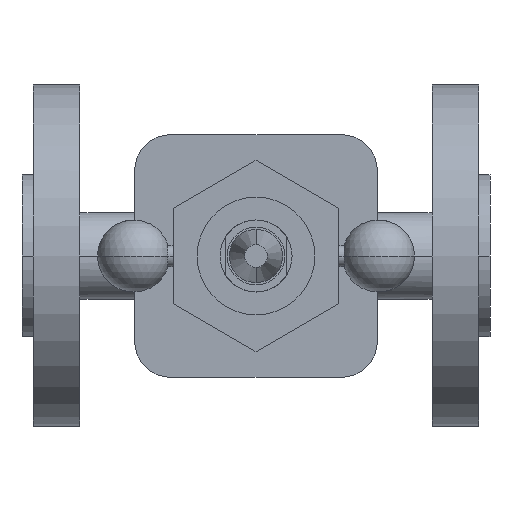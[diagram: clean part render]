
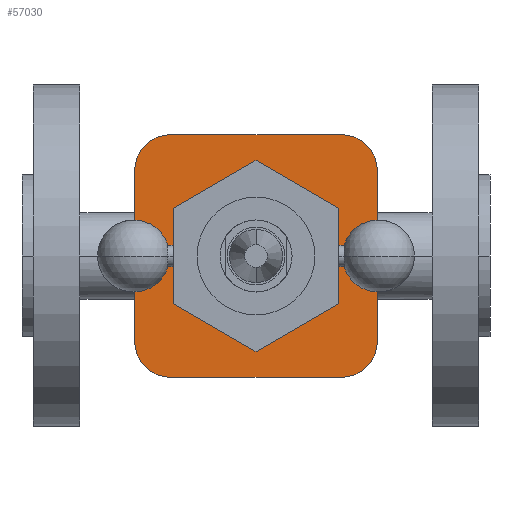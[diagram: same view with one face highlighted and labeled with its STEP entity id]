
A CAD part, front view. The second image highlights one B-rep face of the part: STEP entity #57030.
In plain terms, the highlighted planar face has unit normal (0, -1, 0).
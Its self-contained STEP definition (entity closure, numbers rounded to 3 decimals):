
#17800=CARTESIAN_POINT('',(86.,-61.5,0.));
#17810=VERTEX_POINT('',#17800);
#17970=CARTESIAN_POINT('',(44.,-61.5,0.));
#17980=VERTEX_POINT('',#17970);
#18010=CARTESIAN_POINT('',(65.,-61.5,0.));
#18020=DIRECTION('',(0.,-1.,0.));
#18030=DIRECTION('',(-1.,0.,0.));
#18040=AXIS2_PLACEMENT_3D('',#18010,#18020,#18030);
#18050=CIRCLE('',#18040,21.);
#18060=EDGE_CURVE('',#17810,#17980,#18050,.T.);
#46020=CARTESIAN_POINT('',(98.688,-61.5,-23.688));
#46030=VERTEX_POINT('',#46020);
#46060=CARTESIAN_POINT('',(98.688,-61.5,11.844));
#46070=DIRECTION('',(0.,0.,1.));
#46080=VECTOR('',#46070,1.);
#46090=LINE('',#46060,#46080);
#46100=CARTESIAN_POINT('',(98.688,-61.5,23.688));
#46110=VERTEX_POINT('',#46100);
#46120=EDGE_CURVE('',#46030,#46110,#46090,.T.);
#47200=CARTESIAN_POINT('',(88.688,-61.5,-33.688));
#47210=VERTEX_POINT('',#47200);
#47240=CARTESIAN_POINT('',(88.688,-61.5,-23.688));
#47250=DIRECTION('',(0.,-1.,0.));
#47260=DIRECTION('',(1.,0.,0.));
#47270=AXIS2_PLACEMENT_3D('',#47240,#47250,#47260);
#47280=CIRCLE('',#47270,10.);
#47290=EDGE_CURVE('',#47210,#46030,#47280,.T.);
#48280=CARTESIAN_POINT('',(41.312,-61.5,-33.688));
#48290=VERTEX_POINT('',#48280);
#48320=CARTESIAN_POINT('',(60.469,-61.5,-33.688));
#48330=DIRECTION('',(1.,0.,0.));
#48340=VECTOR('',#48330,1.);
#48350=LINE('',#48320,#48340);
#48360=EDGE_CURVE('',#48290,#47210,#48350,.T.);
#49390=CARTESIAN_POINT('',(31.312,-61.5,-23.688));
#49400=VERTEX_POINT('',#49390);
#49430=CARTESIAN_POINT('',(41.312,-61.5,-23.688));
#49440=DIRECTION('',(0.,-1.,0.));
#49450=DIRECTION('',(0.,0.,-1.));
#49460=AXIS2_PLACEMENT_3D('',#49430,#49440,#49450);
#49470=CIRCLE('',#49460,10.);
#49480=EDGE_CURVE('',#49400,#48290,#49470,.T.);
#50000=CARTESIAN_POINT('',(31.312,-61.5,23.688));
#50010=VERTEX_POINT('',#50000);
#50040=CARTESIAN_POINT('',(31.312,-61.5,-11.844));
#50050=DIRECTION('',(0.,0.,-1.));
#50060=VECTOR('',#50050,1.);
#50070=LINE('',#50040,#50060);
#50080=EDGE_CURVE('',#50010,#49400,#50070,.T.);
#50310=CARTESIAN_POINT('',(41.312,-61.5,33.688));
#50320=VERTEX_POINT('',#50310);
#50350=CARTESIAN_POINT('',(41.312,-61.5,23.688));
#50360=DIRECTION('',(0.,-1.,0.));
#50370=DIRECTION('',(-1.,0.,0.));
#50380=AXIS2_PLACEMENT_3D('',#50350,#50360,#50370);
#50390=CIRCLE('',#50380,10.);
#50400=EDGE_CURVE('',#50320,#50010,#50390,.T.);
#50630=CARTESIAN_POINT('',(88.688,-61.5,33.688));
#50640=VERTEX_POINT('',#50630);
#50670=CARTESIAN_POINT('',(36.781,-61.5,33.688));
#50680=DIRECTION('',(-1.,0.,0.));
#50690=VECTOR('',#50680,1.);
#50700=LINE('',#50670,#50690);
#50710=EDGE_CURVE('',#50640,#50320,#50700,.T.);
#50910=CARTESIAN_POINT('',(88.688,-61.5,23.688));
#50920=DIRECTION('',(0.,-1.,0.));
#50930=DIRECTION('',(0.,0.,1.));
#50940=AXIS2_PLACEMENT_3D('',#50910,#50920,#50930);
#50950=CIRCLE('',#50940,10.);
#50960=EDGE_CURVE('',#46110,#50640,#50950,.T.);
#56830=CARTESIAN_POINT('',(32.25,-61.5,0.));
#56840=DIRECTION('',(0.,-1.,0.));
#56850=DIRECTION('',(-1.,0.,0.));
#56860=AXIS2_PLACEMENT_3D('',#56830,#56840,#56850);
#56870=PLANE('',#56860);
#56880=ORIENTED_EDGE('',*,*,#50400,.T.);
#56890=ORIENTED_EDGE('',*,*,#50710,.T.);
#56900=ORIENTED_EDGE('',*,*,#50960,.T.);
#56910=ORIENTED_EDGE('',*,*,#46120,.T.);
#56920=ORIENTED_EDGE('',*,*,#47290,.T.);
#56930=ORIENTED_EDGE('',*,*,#48360,.T.);
#56940=ORIENTED_EDGE('',*,*,#49480,.T.);
#56950=ORIENTED_EDGE('',*,*,#50080,.T.);
#56960=EDGE_LOOP('',(#56950,#56940,#56930,#56920,#56910,#56900,#56890,
#56880));
#56970=FACE_OUTER_BOUND('',#56960,.T.);
#56980=EDGE_CURVE('',#17980,#17810,#18050,.T.);
#56990=ORIENTED_EDGE('',*,*,#56980,.F.);
#57000=ORIENTED_EDGE('',*,*,#18060,.F.);
#57010=EDGE_LOOP('',(#57000,#56990));
#57020=FACE_BOUND('',#57010,.T.);
#57030=ADVANCED_FACE('',(#56970,#57020),#56870,.T.);
